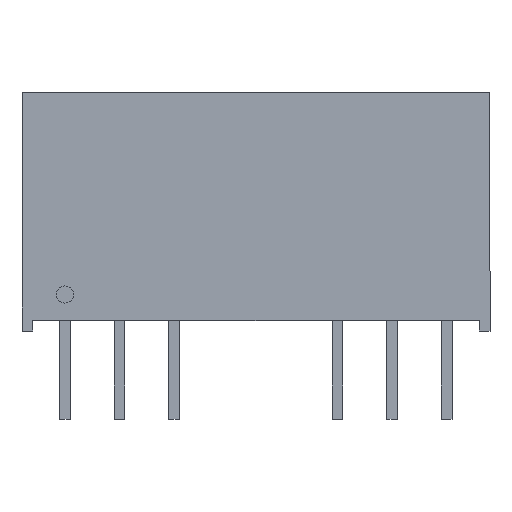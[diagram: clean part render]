
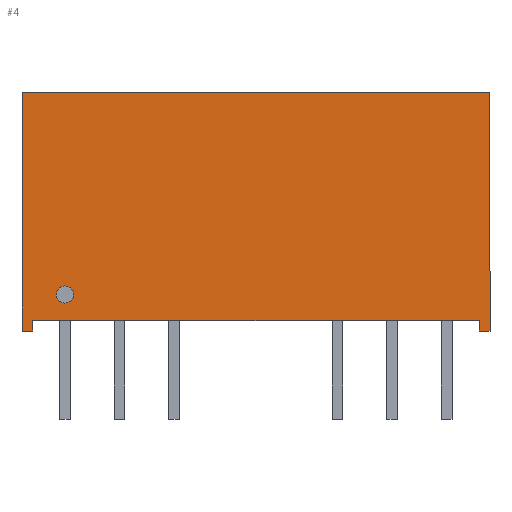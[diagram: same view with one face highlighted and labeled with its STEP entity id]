
A CAD part, top view. The second image highlights one B-rep face of the part: STEP entity #4.
In plain terms, the highlighted planar face has unit normal (0, 0, 1).
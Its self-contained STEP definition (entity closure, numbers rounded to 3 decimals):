
#1 = CARTESIAN_POINT ( 'NONE',  ( -8.5, 1.2, 4.6 ) ) ;
#4 = ADVANCED_FACE ( 'NONE', ( #1152, #1249 ), #655, .F. ) ;
#15 = VERTEX_POINT ( 'NONE', #1283 ) ;
#31 = AXIS2_PLACEMENT_3D ( 'NONE', #944, #47, #1159 ) ;
#47 = DIRECTION ( 'NONE',  ( 0., 0., -1. ) ) ;
#50 = DIRECTION ( 'NONE',  ( 0., 1., 0. ) ) ;
#72 = ORIENTED_EDGE ( 'NONE', *, *, #1109, .T. ) ;
#96 = CIRCLE ( 'NONE', #934, 0.4 ) ;
#111 = ORIENTED_EDGE ( 'NONE', *, *, #725, .T. ) ;
#127 = DIRECTION ( 'NONE',  ( 0., -1., 0. ) ) ;
#135 = DIRECTION ( 'NONE',  ( 0., -1., 0. ) ) ;
#138 = VECTOR ( 'NONE', #893, 1000. ) ;
#144 = DIRECTION ( 'NONE',  ( 1., 0., 0. ) ) ;
#172 = VERTEX_POINT ( 'NONE', #1 ) ;
#176 = VERTEX_POINT ( 'NONE', #1111 ) ;
#205 = LINE ( 'NONE', #523, #828 ) ;
#223 = ORIENTED_EDGE ( 'NONE', *, *, #942, .T. ) ;
#270 = CARTESIAN_POINT ( 'NONE',  ( -10.4, 0., 4.6 ) ) ;
#316 = CARTESIAN_POINT ( 'NONE',  ( 10.9, -0.5, 4.6 ) ) ;
#326 = DIRECTION ( 'NONE',  ( 0., 0., 1. ) ) ;
#332 = EDGE_CURVE ( 'NONE', #176, #620, #480, .T. ) ;
#353 = ORIENTED_EDGE ( 'NONE', *, *, #1104, .F. ) ;
#362 = VECTOR ( 'NONE', #585, 1000. ) ;
#365 = DIRECTION ( 'NONE',  ( -1., 0., 0. ) ) ;
#383 = LINE ( 'NONE', #270, #472 ) ;
#394 = LINE ( 'NONE', #988, #138 ) ;
#401 = VECTOR ( 'NONE', #135, 1000. ) ;
#464 = CARTESIAN_POINT ( 'NONE',  ( 10.4, 0., 4.6 ) ) ;
#472 = VECTOR ( 'NONE', #1074, 1000. ) ;
#473 = CIRCLE ( 'NONE', #1165, 0.4 ) ;
#480 = LINE ( 'NONE', #881, #362 ) ;
#485 = ORIENTED_EDGE ( 'NONE', *, *, #1236, .F. ) ;
#489 = EDGE_CURVE ( 'NONE', #1124, #176, #1037, .T. ) ;
#497 = EDGE_LOOP ( 'NONE', ( #353, #485 ) ) ;
#523 = CARTESIAN_POINT ( 'NONE',  ( -10.4, 0., 4.6 ) ) ;
#534 = DIRECTION ( 'NONE',  ( 0., 0., 1. ) ) ;
#585 = DIRECTION ( 'NONE',  ( 1., 0., 0. ) ) ;
#587 = EDGE_CURVE ( 'NONE', #1100, #1125, #834, .T. ) ;
#611 = ORIENTED_EDGE ( 'NONE', *, *, #685, .T. ) ;
#615 = VECTOR ( 'NONE', #127, 1000. ) ;
#620 = VERTEX_POINT ( 'NONE', #959 ) ;
#650 = VERTEX_POINT ( 'NONE', #1155 ) ;
#655 = PLANE ( 'NONE',  #31 ) ;
#661 = CARTESIAN_POINT ( 'NONE',  ( 10.4, -0.5, 4.6 ) ) ;
#666 = ORIENTED_EDGE ( 'NONE', *, *, #489, .T. ) ;
#685 = EDGE_CURVE ( 'NONE', #966, #1100, #394, .T. ) ;
#710 = DIRECTION ( 'NONE',  ( 0., 1., 0. ) ) ;
#725 = EDGE_CURVE ( 'NONE', #650, #1004, #383, .T. ) ;
#826 = CARTESIAN_POINT ( 'NONE',  ( -8.9, 1.2, 4.6 ) ) ;
#828 = VECTOR ( 'NONE', #710, 1000. ) ;
#834 = LINE ( 'NONE', #1229, #1269 ) ;
#837 = LINE ( 'NONE', #1161, #954 ) ;
#842 = EDGE_CURVE ( 'NONE', #1004, #966, #1019, .T. ) ;
#881 = CARTESIAN_POINT ( 'NONE',  ( -10.4, -0.5, 4.6 ) ) ;
#893 = DIRECTION ( 'NONE',  ( 1., 0., 0. ) ) ;
#916 = CARTESIAN_POINT ( 'NONE',  ( 10.9, 10.6, 4.6 ) ) ;
#934 = AXIS2_PLACEMENT_3D ( 'NONE', #826, #326, #144 ) ;
#936 = CARTESIAN_POINT ( 'NONE',  ( 10.4, 0., 4.6 ) ) ;
#942 = EDGE_CURVE ( 'NONE', #1125, #1124, #837, .T. ) ;
#944 = CARTESIAN_POINT ( 'NONE',  ( 10.4, 10.6, 4.6 ) ) ;
#954 = VECTOR ( 'NONE', #365, 1000. ) ;
#959 = CARTESIAN_POINT ( 'NONE',  ( -10.4, -0.5, 4.6 ) ) ;
#966 = VERTEX_POINT ( 'NONE', #661 ) ;
#988 = CARTESIAN_POINT ( 'NONE',  ( 10.4, -0.5, 4.6 ) ) ;
#995 = ORIENTED_EDGE ( 'NONE', *, *, #842, .T. ) ;
#1004 = VERTEX_POINT ( 'NONE', #464 ) ;
#1010 = ORIENTED_EDGE ( 'NONE', *, *, #332, .T. ) ;
#1018 = DIRECTION ( 'NONE',  ( 1., 0., 0. ) ) ;
#1019 = LINE ( 'NONE', #936, #615 ) ;
#1037 = LINE ( 'NONE', #1113, #401 ) ;
#1074 = DIRECTION ( 'NONE',  ( 1., 0., 0. ) ) ;
#1100 = VERTEX_POINT ( 'NONE', #316 ) ;
#1104 = EDGE_CURVE ( 'NONE', #172, #15, #96, .T. ) ;
#1108 = CARTESIAN_POINT ( 'NONE',  ( -10.9, 10.6, 4.6 ) ) ;
#1109 = EDGE_CURVE ( 'NONE', #620, #650, #205, .T. ) ;
#1111 = CARTESIAN_POINT ( 'NONE',  ( -10.9, -0.5, 4.6 ) ) ;
#1113 = CARTESIAN_POINT ( 'NONE',  ( -10.9, -0.5, 4.6 ) ) ;
#1115 = EDGE_LOOP ( 'NONE', ( #995, #611, #1209, #223, #666, #1010, #72, #111 ) ) ;
#1124 = VERTEX_POINT ( 'NONE', #1108 ) ;
#1125 = VERTEX_POINT ( 'NONE', #916 ) ;
#1152 = FACE_BOUND ( 'NONE', #497, .T. ) ;
#1155 = CARTESIAN_POINT ( 'NONE',  ( -10.4, 0., 4.6 ) ) ;
#1159 = DIRECTION ( 'NONE',  ( -1., 0., 0. ) ) ;
#1161 = CARTESIAN_POINT ( 'NONE',  ( 10.9, 10.6, 4.6 ) ) ;
#1165 = AXIS2_PLACEMENT_3D ( 'NONE', #1220, #534, #1018 ) ;
#1209 = ORIENTED_EDGE ( 'NONE', *, *, #587, .T. ) ;
#1220 = CARTESIAN_POINT ( 'NONE',  ( -8.9, 1.2, 4.6 ) ) ;
#1229 = CARTESIAN_POINT ( 'NONE',  ( 10.9, -0.5, 4.6 ) ) ;
#1236 = EDGE_CURVE ( 'NONE', #15, #172, #473, .T. ) ;
#1249 = FACE_OUTER_BOUND ( 'NONE', #1115, .T. ) ;
#1269 = VECTOR ( 'NONE', #50, 1000. ) ;
#1283 = CARTESIAN_POINT ( 'NONE',  ( -9.3, 1.2, 4.6 ) ) ;
